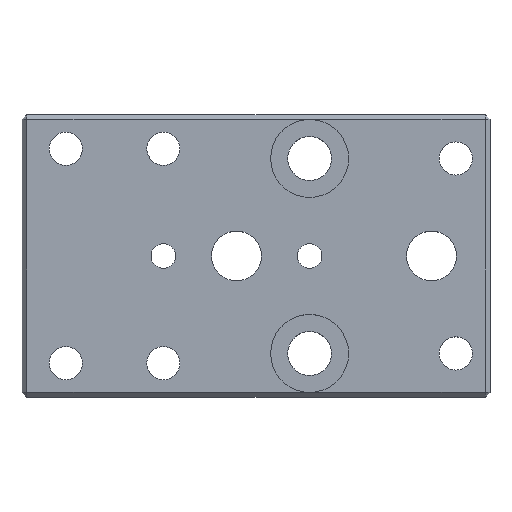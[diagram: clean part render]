
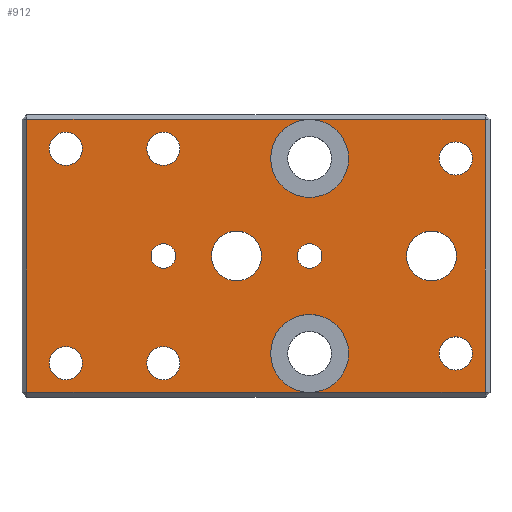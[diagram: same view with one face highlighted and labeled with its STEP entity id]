
A CAD part, top view. The second image highlights one B-rep face of the part: STEP entity #912.
In plain terms, the highlighted planar face has unit normal (0, 0, 1).
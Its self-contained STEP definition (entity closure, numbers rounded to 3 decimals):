
#38=FACE_BOUND('',#117,.T.);
#39=FACE_BOUND('',#118,.T.);
#40=FACE_BOUND('',#119,.T.);
#41=FACE_BOUND('',#120,.T.);
#42=FACE_BOUND('',#121,.T.);
#43=FACE_BOUND('',#122,.T.);
#44=FACE_BOUND('',#123,.T.);
#45=FACE_BOUND('',#124,.T.);
#46=FACE_BOUND('',#125,.T.);
#47=FACE_BOUND('',#126,.T.);
#62=FACE_OUTER_BOUND('',#116,.T.);
#116=EDGE_LOOP('',(#581,#582,#583,#584,#585,#586,#587,#588,#589));
#117=EDGE_LOOP('',(#590));
#118=EDGE_LOOP('',(#591));
#119=EDGE_LOOP('',(#592));
#120=EDGE_LOOP('',(#593));
#121=EDGE_LOOP('',(#594));
#122=EDGE_LOOP('',(#595));
#123=EDGE_LOOP('',(#596));
#124=EDGE_LOOP('',(#597));
#125=EDGE_LOOP('',(#598));
#126=EDGE_LOOP('',(#599));
#194=CIRCLE('',#982,4.);
#195=CIRCLE('',#983,4.);
#196=CIRCLE('',#984,4.);
#197=CIRCLE('',#985,2.558);
#198=CIRCLE('',#986,2.558);
#199=CIRCLE('',#987,1.7);
#200=CIRCLE('',#988,1.7);
#201=CIRCLE('',#989,1.7);
#202=CIRCLE('',#990,1.7);
#203=CIRCLE('',#991,1.7);
#204=CIRCLE('',#992,1.7);
#205=CIRCLE('',#993,1.265);
#206=CIRCLE('',#994,1.265);
#239=LINE('',#1366,#315);
#240=LINE('',#1369,#316);
#241=LINE('',#1371,#317);
#242=LINE('',#1373,#318);
#243=LINE('',#1378,#319);
#244=LINE('',#1379,#320);
#315=VECTOR('',#1087,1000.);
#316=VECTOR('',#1090,1000.);
#317=VECTOR('',#1091,1000.);
#318=VECTOR('',#1092,1000.);
#319=VECTOR('',#1097,1000.);
#320=VECTOR('',#1098,1000.);
#391=VERTEX_POINT('',#1364);
#392=VERTEX_POINT('',#1365);
#393=VERTEX_POINT('',#1368);
#394=VERTEX_POINT('',#1370);
#395=VERTEX_POINT('',#1372);
#396=VERTEX_POINT('',#1374);
#397=VERTEX_POINT('',#1377);
#398=VERTEX_POINT('',#1380);
#399=VERTEX_POINT('',#1382);
#400=VERTEX_POINT('',#1384);
#401=VERTEX_POINT('',#1386);
#402=VERTEX_POINT('',#1388);
#403=VERTEX_POINT('',#1390);
#404=VERTEX_POINT('',#1392);
#405=VERTEX_POINT('',#1394);
#406=VERTEX_POINT('',#1396);
#407=VERTEX_POINT('',#1398);
#460=EDGE_CURVE('',#391,#392,#239,.T.);
#461=EDGE_CURVE('',#392,#392,#194,.T.);
#462=EDGE_CURVE('',#392,#393,#240,.T.);
#463=EDGE_CURVE('',#393,#394,#241,.T.);
#464=EDGE_CURVE('',#394,#395,#242,.T.);
#465=EDGE_CURVE('',#395,#396,#195,.T.);
#466=EDGE_CURVE('',#396,#395,#196,.T.);
#467=EDGE_CURVE('',#395,#397,#243,.T.);
#468=EDGE_CURVE('',#397,#391,#244,.T.);
#469=EDGE_CURVE('',#398,#398,#197,.F.);
#470=EDGE_CURVE('',#399,#399,#198,.F.);
#471=EDGE_CURVE('',#400,#400,#199,.T.);
#472=EDGE_CURVE('',#401,#401,#200,.T.);
#473=EDGE_CURVE('',#402,#402,#201,.T.);
#474=EDGE_CURVE('',#403,#403,#202,.T.);
#475=EDGE_CURVE('',#404,#404,#203,.T.);
#476=EDGE_CURVE('',#405,#405,#204,.T.);
#477=EDGE_CURVE('',#406,#406,#205,.F.);
#478=EDGE_CURVE('',#407,#407,#206,.F.);
#581=ORIENTED_EDGE('',*,*,#460,.T.);
#582=ORIENTED_EDGE('',*,*,#461,.T.);
#583=ORIENTED_EDGE('',*,*,#462,.T.);
#584=ORIENTED_EDGE('',*,*,#463,.T.);
#585=ORIENTED_EDGE('',*,*,#464,.T.);
#586=ORIENTED_EDGE('',*,*,#465,.T.);
#587=ORIENTED_EDGE('',*,*,#466,.T.);
#588=ORIENTED_EDGE('',*,*,#467,.T.);
#589=ORIENTED_EDGE('',*,*,#468,.T.);
#590=ORIENTED_EDGE('',*,*,#469,.F.);
#591=ORIENTED_EDGE('',*,*,#470,.F.);
#592=ORIENTED_EDGE('',*,*,#471,.F.);
#593=ORIENTED_EDGE('',*,*,#472,.F.);
#594=ORIENTED_EDGE('',*,*,#473,.F.);
#595=ORIENTED_EDGE('',*,*,#474,.F.);
#596=ORIENTED_EDGE('',*,*,#475,.F.);
#597=ORIENTED_EDGE('',*,*,#476,.F.);
#598=ORIENTED_EDGE('',*,*,#477,.F.);
#599=ORIENTED_EDGE('',*,*,#478,.F.);
#823=PLANE('',#981);
#912=ADVANCED_FACE('',(#62,#38,#39,#40,#41,#42,#43,#44,#45,#46,#47),#823,
 .T.);
#981=AXIS2_PLACEMENT_3D('',#1363,#1085,#1086);
#982=AXIS2_PLACEMENT_3D('',#1367,#1088,#1089);
#983=AXIS2_PLACEMENT_3D('',#1375,#1093,#1094);
#984=AXIS2_PLACEMENT_3D('',#1376,#1095,#1096);
#985=AXIS2_PLACEMENT_3D('',#1381,#1099,#1100);
#986=AXIS2_PLACEMENT_3D('',#1383,#1101,#1102);
#987=AXIS2_PLACEMENT_3D('',#1385,#1103,#1104);
#988=AXIS2_PLACEMENT_3D('',#1387,#1105,#1106);
#989=AXIS2_PLACEMENT_3D('',#1389,#1107,#1108);
#990=AXIS2_PLACEMENT_3D('',#1391,#1109,#1110);
#991=AXIS2_PLACEMENT_3D('',#1393,#1111,#1112);
#992=AXIS2_PLACEMENT_3D('',#1395,#1113,#1114);
#993=AXIS2_PLACEMENT_3D('',#1397,#1115,#1116);
#994=AXIS2_PLACEMENT_3D('',#1399,#1117,#1118);
#1085=DIRECTION('center_axis',(0.,0.,1.));
#1086=DIRECTION('ref_axis',(1.,0.,0.));
#1087=DIRECTION('',(-1.,0.,0.));
#1088=DIRECTION('center_axis',(0.,0.,-1.));
#1089=DIRECTION('ref_axis',(0.,-1.,0.));
#1090=DIRECTION('',(-1.,0.,0.));
#1091=DIRECTION('',(0.,-1.,0.));
#1092=DIRECTION('',(1.,0.,0.));
#1093=DIRECTION('center_axis',(0.,0.,-1.));
#1094=DIRECTION('ref_axis',(0.,-1.,0.));
#1095=DIRECTION('center_axis',(0.,0.,-1.));
#1096=DIRECTION('ref_axis',(0.,-1.,0.));
#1097=DIRECTION('',(1.,0.,0.));
#1098=DIRECTION('',(0.,1.,0.));
#1099=DIRECTION('center_axis',(0.,0.,-1.));
#1100=DIRECTION('ref_axis',(0.,1.,0.));
#1101=DIRECTION('center_axis',(0.,0.,-1.));
#1102=DIRECTION('ref_axis',(0.,1.,0.));
#1103=DIRECTION('center_axis',(0.,0.,1.));
#1104=DIRECTION('ref_axis',(1.,0.,0.));
#1105=DIRECTION('center_axis',(0.,0.,1.));
#1106=DIRECTION('ref_axis',(1.,0.,0.));
#1107=DIRECTION('center_axis',(0.,0.,1.));
#1108=DIRECTION('ref_axis',(1.,0.,0.));
#1109=DIRECTION('center_axis',(0.,0.,1.));
#1110=DIRECTION('ref_axis',(1.,0.,0.));
#1111=DIRECTION('center_axis',(0.,0.,1.));
#1112=DIRECTION('ref_axis',(1.,0.,0.));
#1113=DIRECTION('center_axis',(0.,0.,1.));
#1114=DIRECTION('ref_axis',(1.,0.,0.));
#1115=DIRECTION('center_axis',(0.,0.,-1.));
#1116=DIRECTION('ref_axis',(0.,1.,0.));
#1117=DIRECTION('center_axis',(0.,0.,-1.));
#1118=DIRECTION('ref_axis',(0.,1.,0.));
#1363=CARTESIAN_POINT('Origin',(-24.,-14.5,0.));
#1364=CARTESIAN_POINT('',(23.5,14.,0.));
#1365=CARTESIAN_POINT('',(5.5,14.,0.));
#1366=CARTESIAN_POINT('',(-24.,14.,0.));
#1367=CARTESIAN_POINT('Origin',(5.5,10.,0.));
#1368=CARTESIAN_POINT('',(-23.5,14.,0.));
#1369=CARTESIAN_POINT('',(-24.,14.,0.));
#1370=CARTESIAN_POINT('',(-23.5,-14.,0.));
#1371=CARTESIAN_POINT('',(-23.5,-14.5,0.));
#1372=CARTESIAN_POINT('',(5.5,-14.,0.));
#1373=CARTESIAN_POINT('',(-24.,-14.,0.));
#1374=CARTESIAN_POINT('',(5.5,-6.,0.));
#1375=CARTESIAN_POINT('Origin',(5.5,-10.,0.));
#1376=CARTESIAN_POINT('Origin',(5.5,-10.,0.));
#1377=CARTESIAN_POINT('',(23.5,-14.,0.));
#1378=CARTESIAN_POINT('',(-24.,-14.,0.));
#1379=CARTESIAN_POINT('',(23.5,-14.5,0.));
#1380=CARTESIAN_POINT('',(-2.,-2.558,0.));
#1381=CARTESIAN_POINT('Origin',(-2.,0.,0.));
#1382=CARTESIAN_POINT('',(18.,-2.558,0.));
#1383=CARTESIAN_POINT('Origin',(18.,0.,0.));
#1384=CARTESIAN_POINT('',(-7.8,11.,0.));
#1385=CARTESIAN_POINT('Origin',(-9.5,11.,0.));
#1386=CARTESIAN_POINT('',(-7.8,-11.,0.));
#1387=CARTESIAN_POINT('Origin',(-9.5,-11.,0.));
#1388=CARTESIAN_POINT('',(-17.8,11.,0.));
#1389=CARTESIAN_POINT('Origin',(-19.5,11.,0.));
#1390=CARTESIAN_POINT('',(-17.8,-11.,0.));
#1391=CARTESIAN_POINT('Origin',(-19.5,-11.,0.));
#1392=CARTESIAN_POINT('',(22.2,-10.,0.));
#1393=CARTESIAN_POINT('Origin',(20.5,-10.,0.));
#1394=CARTESIAN_POINT('',(22.2,10.,0.));
#1395=CARTESIAN_POINT('Origin',(20.5,10.,0.));
#1396=CARTESIAN_POINT('',(-9.5,-1.265,0.));
#1397=CARTESIAN_POINT('Origin',(-9.5,0.,0.));
#1398=CARTESIAN_POINT('',(5.5,-1.265,0.));
#1399=CARTESIAN_POINT('Origin',(5.5,0.,0.));
